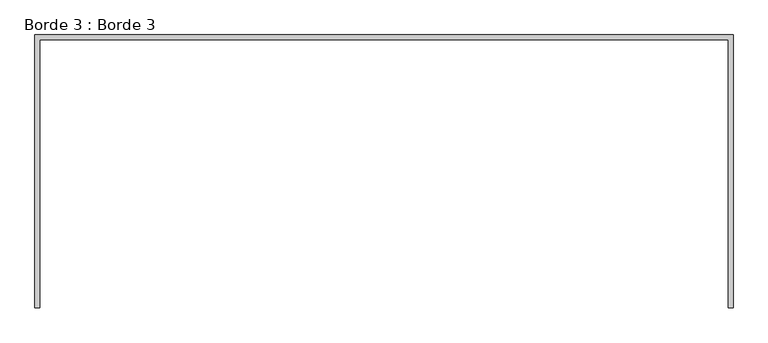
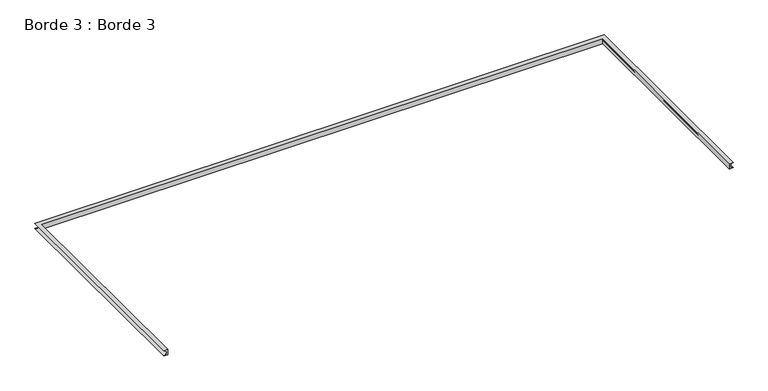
"""IFC4 building model written with IfcOpenShell, lengths in millimetres: proxy geometry, Borde 3 : Borde 3."""

from ifc_helpers import new_model, si_unit, frame, origin, place, context, project, spatial, polyline, circle_curve, ellipse_curve, source, transform, mapped, element, save
from ifc_brep_helpers import plane_surface, revolved_surface, advanced_brep


def borde_3_borde_3_d60ba3d7(model_context):
    return source(origin(), model_context, "Body", "AdvancedBrep", [
        advanced_brep(
        [(-30.8601801, 2607.3330963, 2700.0), (-30.8601801, 2607.3330963, 2660.0), (-0.8601801, 2607.3330963, 2660.0), (-0.8601801, 2607.3330963, 2700.0), (-30.8601801, 4231.8960075, 2700.0), (-30.8601801, 4231.8960075, 2660.0), (-4201.0601801, 4231.8960075, 2660.0), (-4201.0601801, 2607.3330963, 2660.0), (-4231.0601801, 2607.3330963, 2660.0), (-4231.0601801, 4261.8960075, 2660.0), (-0.8601801, 4261.8960075, 2660.0), (-0.8601801, 4261.8960075, 2700.0), (-4231.0601801, 4261.8960075, 2700.0), (-4231.0601801, 2607.3330963, 2700.0), (-4201.0601801, 2607.3330963, 2700.0), (-4201.0601801, 4231.8960075, 2700.0)],
        [
            (0, 1),
            (1, 2),
            (2, 3, circle_curve(frame((-0.8601801, 2607.3330963, 2680.0), z_axis=(0.0, 1.0, 0.0), x_axis=(1.0, 0.0, 0.0)), 20.0)),
            (3, 0),
            (0, 4),
            (4, 5),
            (5, 1),
            (5, 6),
            (6, 7),
            (7, 8),
            (8, 9),
            (9, 10),
            (10, 2),
            (10, 11, ellipse_curve(frame((-0.8601801, 4261.8960075, 2680.0), z_axis=(-0.7071067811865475, 0.7071067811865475, 0.0), x_axis=(0.7071067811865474, 0.7071067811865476, 0.0)), 28.2842712, 20.0)),
            (11, 3),
            (11, 12),
            (12, 13),
            (13, 14),
            (14, 15),
            (15, 4),
            (15, 6),
            (9, 12, ellipse_curve(frame((-4231.0601801, 4261.8960075, 2680.0), z_axis=(-0.7071067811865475, -0.7071067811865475, 0.0), x_axis=(-0.7071067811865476, 0.7071067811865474, 0.0)), 28.2842712, 20.0)),
            (13, 8, circle_curve(frame((-4231.0601801, 2607.3330963, 2680.0), z_axis=(0.0, 1.0, 0.0), x_axis=(-1.0, 0.0, 0.0)), 20.0)),
            (7, 14),
        ],
        [
            plane_surface(frame((-0.8601801, 2607.3330963, 2660.0), z_axis=(0.0, -1.0, 0.0), x_axis=(0.0, 0.0, 1.0))),
            plane_surface(frame((-30.8601801, 2607.3330963, 2700.0), z_axis=(-1.0, 0.0, 0.0), x_axis=(0.0, 1.0, 0.0))),
            plane_surface(frame((-30.8601801, 2607.3330963, 2660.0), z_axis=(0.0, 0.0, -1.0), x_axis=(0.0, 1.0, 0.0))),
            revolved_surface(polyline([(19.1398199, 4281.89600746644, 2680.0), (19.1398199, 2607.3330963, 2680.0)]), (-0.8601801, 2607.3330963, 2680.0), (0.0, 1.0, 0.0)),
            plane_surface(frame((-0.8601801, 2607.3330963, 2700.0), z_axis=(0.0, 0.0, 1.0), x_axis=(0.0, 1.0, 0.0))),
            plane_surface(frame((-30.8601801, 4231.8960075, 2700.0), z_axis=(0.0, -1.0, 0.0), x_axis=(-1.0, 0.0, 0.0))),
            revolved_surface(polyline([(-4251.06018006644, 4281.8960075, 2680.0), (19.13981986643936, 4281.8960075, 2680.0)]), (-0.8601801, 4261.8960075, 2680.0), (-1.0, 0.0, 0.0)),
            plane_surface(frame((-4231.0601801, 2607.3330963, 2660.0), z_axis=(0.0, -1.0, 0.0), x_axis=(0.0, 0.0, 1.0))),
            plane_surface(frame((-4201.0601801, 4231.8960075, 2700.0), z_axis=(1.0, 0.0, 0.0), x_axis=(0.0, -1.0, 0.0))),
            revolved_surface(polyline([(-4251.0601801, 2607.3330963, 2680.0), (-4251.0601801, 4281.89600746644, 2680.0)]), (-4231.0601801, 4261.8960075, 2680.0), (0.0, -1.0, 0.0)),
        ],
        [
            (0, [[1, 2, 3, 4]]),
            (1, [[-1, 5, 6, 7]]),
            (2, [[-2, -7, 8, 9, 10, 11, 12, 13]]),
            (3, [[-3, -13, 14, 15]]),
            (4, [[-4, -15, 16, 17, 18, 19, 20, -5]]),
            (5, [[-6, -20, 21, -8]]),
            (6, [[-14, -12, 22, -16]]),
            (7, [[-18, 23, -10, 24]]),
            (8, [[-21, -19, -24, -9]]),
            (9, [[-22, -11, -23, -17]]),
        ],
    ),
    ])


if __name__ == "__main__":
    model = new_model("IFC4")
    model_context = context("Model", 3, world=origin())
    ifc_project = project(units=[si_unit("LENGTHUNIT", "METRE", prefix="MILLI")], contexts=[model_context])
    site = spatial("IfcSite", under=ifc_project)
    building = spatial("IfcBuilding", under=site)
    placement = place(None, origin())
    borde_3_borde_3_shape = borde_3_borde_3_d60ba3d7(model_context)
    element("IfcBuildingElementProxy", 1, Name="Borde 3 : Borde 3", ObjectType="Borde 3 : Borde 3", at=placement, inside=building, context=model_context, shape_type="MappedRepresentation", body=[
        mapped(borde_3_borde_3_shape, transform((0.0, 0.0, 0.0), x_axis=(1.0, 0.0, 0.0), y_axis=(0.0, 1.0, 0.0), z_axis=(0.0, 0.0, 1.0))),
    ])
    save(model, "model.ifc")
